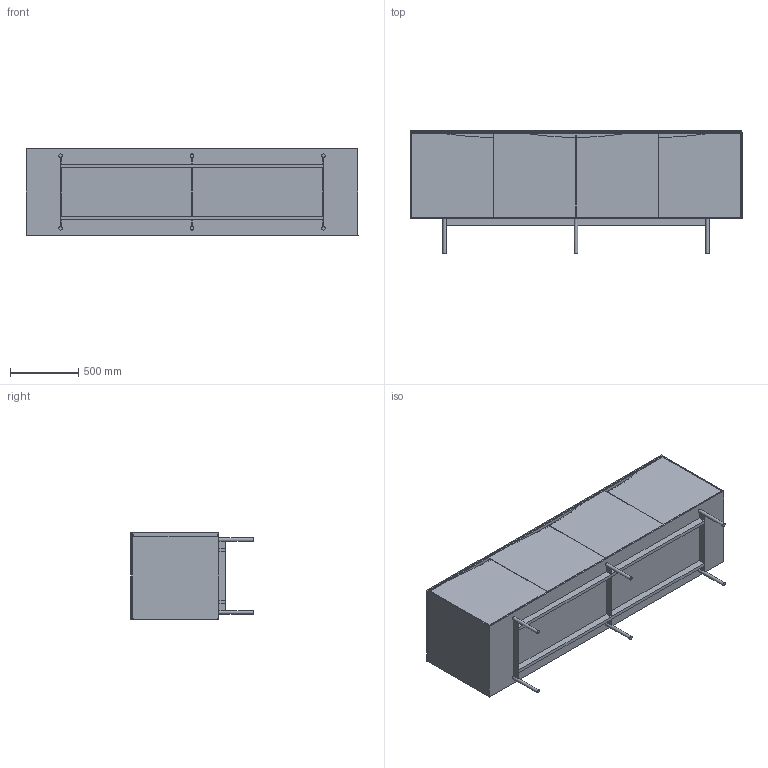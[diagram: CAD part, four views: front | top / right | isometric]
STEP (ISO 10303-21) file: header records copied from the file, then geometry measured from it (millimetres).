
FILE_DESCRIPTION(/* description */ ('','CAx-IF Rec.Pracs.---Representation and Presentation of Product Manufacturing Information (PMI)---4.0---2014-10-13'),/* implementation_level */ '2;1');
FILE_NAME(/* name */ 'CREDENZA STORAGE_PARAGON 3.stp',/* time_stamp */ '2024-12-07T18:31:30-05:00',/* author */ ('mbowman'),/* organization */ (''),/* preprocessor_version */ 'ST-DEVELOPER v19.2',/* originating_system */ 'Autodesk Inventor 2023',/* authorisation */ '');
FILE_SCHEMA (('AP242_MANAGED_MODEL_BASED_3D_ENGINEERING_MIM_LF { 1 0 10303 442 1 1 4 }'));
Length unit declared in the file: inch
Products named in the file (2): PARAGON^CREDENZA 3_35x96 4 DOORS W TOP-PARTS SOLID; PARAGON^CREDENZA 3_35x96 4 DOORS W TOP-PARTS SOLID_1
Assembly tree (1 placements, depth 2):
  PARAGON^CREDENZA 3_35x96 4 DOORS W TOP-PARTS SOLID
    PARAGON^CREDENZA 3_35x96 4 DOORS W TOP-PARTS SOLID_1
Bounding box: 2438.4 x 901.7 x 635 mm (x, y, z)
Volume: 205143226 mm3; surface area: 22950611.9 mm2
Topology: 18 solids, 18 shells, 174 faces, 414 edges, 276 vertices
Faces by surface type: plane 156, cylinder 14, bspline 4
Full cylindrical faces by diameter (mm): 25.4 x6
Entity records: 6171 total; most frequent: CARTESIAN_POINT 1368, DIRECTION 868, ORIENTED_EDGE 828, EDGE_CURVE 414, LINE 362, VECTOR 362, VERTEX_POINT 276, STYLED_ITEM 270
